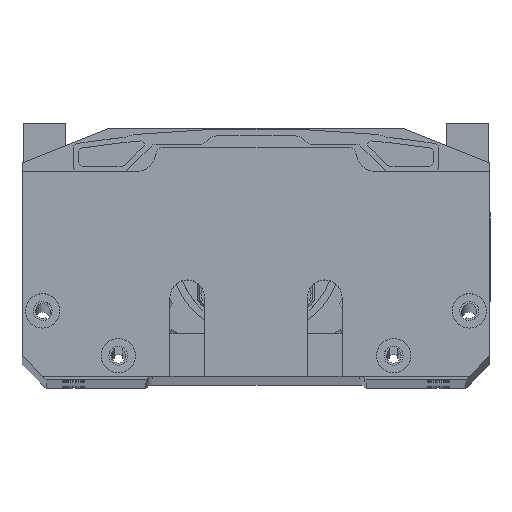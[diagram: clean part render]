
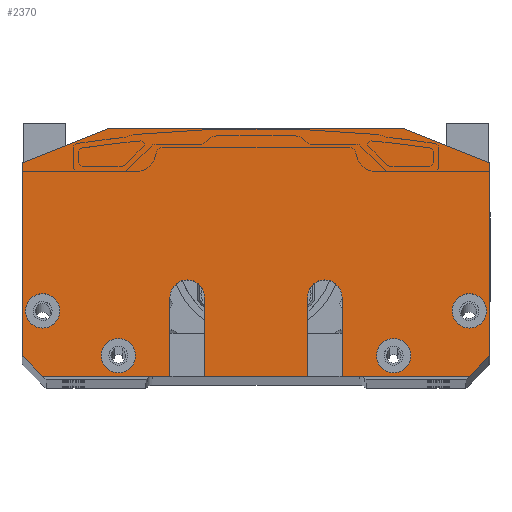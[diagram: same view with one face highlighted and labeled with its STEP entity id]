
A CAD part, top view. The second image highlights one B-rep face of the part: STEP entity #2370.
In plain terms, the highlighted planar face has unit normal (0, 0, 1).
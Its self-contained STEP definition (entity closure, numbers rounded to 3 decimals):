
#2370=ADVANCED_FACE('9',(#3475,#3476,#3477,#3478,#3479),#3051,.T.);
#3051=PLANE('',#19905);
#3475=FACE_BOUND('',#4515,.T.);
#3476=FACE_BOUND('',#4516,.T.);
#3477=FACE_BOUND('',#4517,.T.);
#3478=FACE_BOUND('',#4518,.T.);
#3479=FACE_BOUND('',#4519,.T.);
#4515=EDGE_LOOP('',(#9192,#9193,#9194,#9195,#9196,#9197,#9198,#9199,#9200,
#9201,#9202,#9203,#9204,#9205,#9206,#9207));
#4516=EDGE_LOOP('',(#9208));
#4517=EDGE_LOOP('',(#9209));
#4518=EDGE_LOOP('',(#9210));
#4519=EDGE_LOOP('',(#9211));
#5755=CIRCLE('',#19864,5.);
#5757=CIRCLE('',#19869,5.);
#5775=CIRCLE('',#19901,5.);
#5776=CIRCLE('',#19902,5.);
#5777=CIRCLE('',#19903,5.);
#5778=CIRCLE('',#19904,5.);
#9192=ORIENTED_EDGE('',*,*,#15148,.T.);
#9193=ORIENTED_EDGE('',*,*,#15150,.T.);
#9194=ORIENTED_EDGE('',*,*,#15144,.T.);
#9195=ORIENTED_EDGE('',*,*,#14250,.F.);
#9196=ORIENTED_EDGE('',*,*,#15156,.T.);
#9197=ORIENTED_EDGE('',*,*,#15158,.T.);
#9198=ORIENTED_EDGE('',*,*,#15152,.T.);
#9199=ORIENTED_EDGE('',*,*,#14247,.F.);
#9200=ORIENTED_EDGE('',*,*,#14264,.T.);
#9201=ORIENTED_EDGE('',*,*,#14278,.F.);
#9202=ORIENTED_EDGE('',*,*,#15167,.T.);
#9203=ORIENTED_EDGE('',*,*,#15189,.F.);
#9204=ORIENTED_EDGE('',*,*,#15170,.T.);
#9205=ORIENTED_EDGE('',*,*,#14192,.F.);
#9206=ORIENTED_EDGE('',*,*,#14235,.T.);
#9207=ORIENTED_EDGE('',*,*,#14253,.F.);
#9208=ORIENTED_EDGE('',*,*,#15190,.F.);
#9209=ORIENTED_EDGE('',*,*,#15191,.F.);
#9210=ORIENTED_EDGE('',*,*,#15192,.F.);
#9211=ORIENTED_EDGE('',*,*,#15193,.F.);
#12143=VERTEX_POINT('',#28829);
#12144=VERTEX_POINT('',#28831);
#12172=VERTEX_POINT('',#28910);
#12178=VERTEX_POINT('',#28931);
#12179=VERTEX_POINT('',#28933);
#12180=VERTEX_POINT('',#28936);
#12181=VERTEX_POINT('',#28938);
#12182=VERTEX_POINT('',#28941);
#12189=VERTEX_POINT('',#28962);
#12199=VERTEX_POINT('',#28988);
#12738=VERTEX_POINT('',#32557);
#12740=VERTEX_POINT('',#32563);
#12742=VERTEX_POINT('',#32572);
#12744=VERTEX_POINT('',#32578);
#12753=VERTEX_POINT('',#32603);
#12755=VERTEX_POINT('',#32609);
#12765=VERTEX_POINT('',#32649);
#12766=VERTEX_POINT('',#32651);
#12767=VERTEX_POINT('',#32653);
#12768=VERTEX_POINT('',#32655);
#14192=EDGE_CURVE('',#12143,#12144,#16395,.T.);
#14235=EDGE_CURVE('',#12143,#12172,#16428,.T.);
#14247=EDGE_CURVE('',#12178,#12179,#16439,.T.);
#14250=EDGE_CURVE('',#12180,#12181,#16442,.T.);
#14253=EDGE_CURVE('',#12182,#12172,#16445,.T.);
#14264=EDGE_CURVE('',#12178,#12189,#16455,.T.);
#14278=EDGE_CURVE('',#12199,#12189,#16467,.T.);
#15144=EDGE_CURVE('',#12738,#12181,#16894,.T.);
#15148=EDGE_CURVE('',#12182,#12740,#16898,.T.);
#15150=EDGE_CURVE('',#12740,#12738,#5755,.T.);
#15152=EDGE_CURVE('',#12742,#12179,#16900,.T.);
#15156=EDGE_CURVE('',#12180,#12744,#16904,.T.);
#15158=EDGE_CURVE('',#12744,#12742,#5757,.T.);
#15167=EDGE_CURVE('',#12199,#12753,#16909,.T.);
#15170=EDGE_CURVE('',#12755,#12144,#16912,.T.);
#15189=EDGE_CURVE('',#12755,#12753,#16918,.T.);
#15190=EDGE_CURVE('',#12765,#12765,#5775,.T.);
#15191=EDGE_CURVE('',#12766,#12766,#5776,.T.);
#15192=EDGE_CURVE('',#12767,#12767,#5777,.T.);
#15193=EDGE_CURVE('',#12768,#12768,#5778,.T.);
#16395=LINE('',#28830,#17745);
#16428=LINE('',#28911,#17778);
#16439=LINE('',#28932,#17789);
#16442=LINE('',#28937,#17792);
#16445=LINE('',#28942,#17795);
#16455=LINE('',#28963,#17805);
#16467=LINE('',#28989,#17817);
#16894=LINE('',#32556,#18244);
#16898=LINE('',#32564,#18248);
#16900=LINE('',#32571,#18250);
#16904=LINE('',#32579,#18254);
#16909=LINE('',#32602,#18259);
#16912=LINE('',#32608,#18262);
#16918=LINE('',#32647,#18268);
#17745=VECTOR('',#21961,1.);
#17778=VECTOR('',#22032,1.);
#17789=VECTOR('',#22051,1.);
#17792=VECTOR('',#22054,1.);
#17795=VECTOR('',#22057,1.);
#17805=VECTOR('',#22075,1.);
#17817=VECTOR('',#22095,1.);
#18244=VECTOR('',#23854,1.);
#18248=VECTOR('',#23860,1.);
#18250=VECTOR('',#23870,1.);
#18254=VECTOR('',#23876,1.);
#18259=VECTOR('',#23901,1.);
#18262=VECTOR('',#23906,1.);
#18268=VECTOR('',#23958,1.);
#19864=AXIS2_PLACEMENT_3D('',#32567,#23865,#23866);
#19869=AXIS2_PLACEMENT_3D('',#32582,#23881,#23882);
#19901=AXIS2_PLACEMENT_3D('',#32648,#23959,#23960);
#19902=AXIS2_PLACEMENT_3D('',#32650,#23961,#23962);
#19903=AXIS2_PLACEMENT_3D('',#32652,#23963,#23964);
#19904=AXIS2_PLACEMENT_3D('',#32654,#23965,#23966);
#19905=AXIS2_PLACEMENT_3D('',#32656,#23967,#23968);
#21961=DIRECTION('',(0.,1.,0.));
#22032=DIRECTION('',(0.707,-0.707,0.));
#22051=DIRECTION('',(-1.,0.,0.));
#22054=DIRECTION('',(-1.,0.,0.));
#22057=DIRECTION('',(-1.,0.,0.));
#22075=DIRECTION('',(0.707,0.707,0.));
#22095=DIRECTION('',(0.,-1.,0.));
#23854=DIRECTION('',(0.,-1.,0.));
#23860=DIRECTION('',(0.,1.,0.));
#23865=DIRECTION('',(0.,0.,-1.));
#23866=DIRECTION('',(1.,0.,0.));
#23870=DIRECTION('',(0.,-1.,0.));
#23876=DIRECTION('',(0.,1.,0.));
#23881=DIRECTION('',(0.,0.,-1.));
#23882=DIRECTION('',(-1.,0.,0.));
#23901=DIRECTION('',(-0.928,0.371,0.));
#23906=DIRECTION('',(-0.928,-0.371,0.));
#23958=DIRECTION('',(1.,0.,0.));
#23959=DIRECTION('',(0.,0.,1.));
#23960=DIRECTION('',(1.,0.,0.));
#23961=DIRECTION('',(0.,0.,1.));
#23962=DIRECTION('',(1.,0.,0.));
#23963=DIRECTION('',(0.,0.,1.));
#23964=DIRECTION('',(1.,0.,0.));
#23965=DIRECTION('',(0.,0.,1.));
#23966=DIRECTION('',(1.,0.,0.));
#23967=DIRECTION('',(0.,0.,1.));
#23968=DIRECTION('',(-1.,0.,0.));
#28829=CARTESIAN_POINT('',(-68.,6.,382.));
#28830=CARTESIAN_POINT('',(-68.,0.,382.));
#28831=CARTESIAN_POINT('',(-68.,62.,382.));
#28910=CARTESIAN_POINT('',(-62.,0.,382.));
#28911=CARTESIAN_POINT('',(-49.,-13.,382.));
#28931=CARTESIAN_POINT('',(62.,0.,382.));
#28932=CARTESIAN_POINT('',(68.,0.,382.));
#28933=CARTESIAN_POINT('',(25.,0.,382.));
#28936=CARTESIAN_POINT('',(15.,0.,382.));
#28937=CARTESIAN_POINT('',(68.,0.,382.));
#28938=CARTESIAN_POINT('',(-15.,0.,382.));
#28941=CARTESIAN_POINT('',(-25.,0.,382.));
#28942=CARTESIAN_POINT('',(68.,0.,382.));
#28962=CARTESIAN_POINT('',(68.,6.,382.));
#28963=CARTESIAN_POINT('',(49.,-13.,382.));
#28988=CARTESIAN_POINT('',(68.,62.,382.));
#28989=CARTESIAN_POINT('',(68.,0.,382.));
#32556=CARTESIAN_POINT('',(-15.,23.,382.));
#32557=CARTESIAN_POINT('',(-15.,23.,382.));
#32563=CARTESIAN_POINT('',(-25.,23.,382.));
#32564=CARTESIAN_POINT('',(-25.,23.,382.));
#32567=CARTESIAN_POINT('',(-20.,23.,382.));
#32571=CARTESIAN_POINT('',(25.,23.,382.));
#32572=CARTESIAN_POINT('',(25.,23.,382.));
#32578=CARTESIAN_POINT('',(15.,23.,382.));
#32579=CARTESIAN_POINT('',(15.,23.,382.));
#32582=CARTESIAN_POINT('',(20.,23.,382.));
#32602=CARTESIAN_POINT('',(18.345,81.862,382.));
#32603=CARTESIAN_POINT('',(43.,72.,382.));
#32608=CARTESIAN_POINT('',(-18.345,81.862,382.));
#32609=CARTESIAN_POINT('',(-43.,72.,382.));
#32647=CARTESIAN_POINT('',(68.,72.,382.));
#32648=CARTESIAN_POINT('',(-62.,19.,382.));
#32649=CARTESIAN_POINT('',(-57.,19.,382.));
#32650=CARTESIAN_POINT('',(62.,19.,382.));
#32651=CARTESIAN_POINT('',(67.,19.,382.));
#32652=CARTESIAN_POINT('',(-40.,6.,382.));
#32653=CARTESIAN_POINT('',(-35.,6.,382.));
#32654=CARTESIAN_POINT('',(40.,6.,382.));
#32655=CARTESIAN_POINT('',(45.,6.,382.));
#32656=CARTESIAN_POINT('',(0.,36.,382.));
